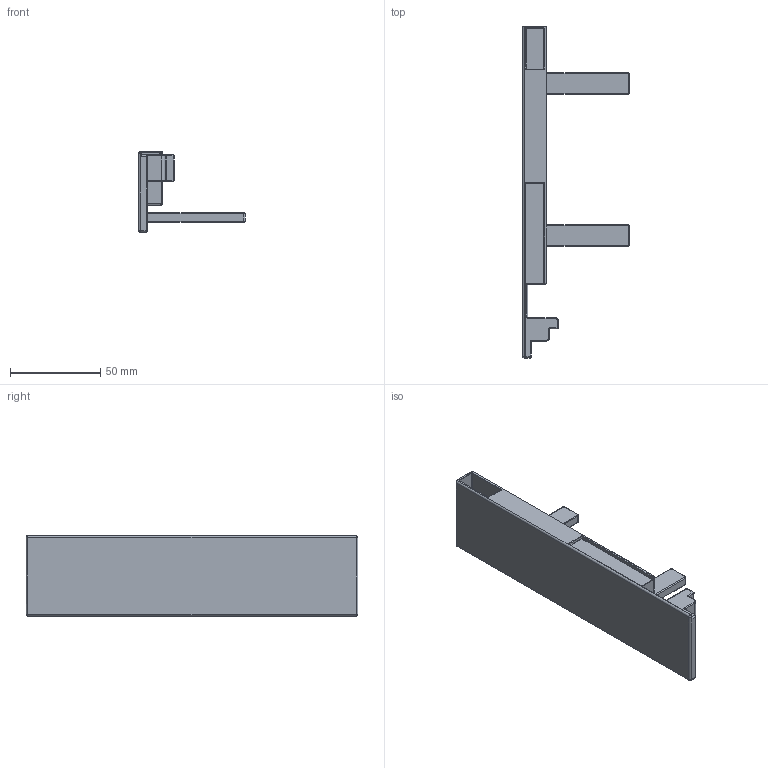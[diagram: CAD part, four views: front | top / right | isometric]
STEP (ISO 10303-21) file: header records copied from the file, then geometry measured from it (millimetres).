
FILE_DESCRIPTION (( 'STEP AP203' ), '1' );
FILE_NAME ('HT13014-L.STEP', '2021-03-30T07:42:47', ( 'Users' ), ( 'Microsoft' ), 'SwSTEP 2.0', 'SolidWorks 2018', '' );
FILE_SCHEMA (( 'CONFIG_CONTROL_DESIGN' ));
Length unit declared in the file: millimetre
Products named in the file (1): HT13014-L
Bounding box: 59.1 x 183.6 x 44.4 mm (x, y, z)
Volume: 72581 mm3; surface area: 26685 mm2
Topology: 1 solids, 1 shells, 184 faces, 443 edges, 252 vertices
Faces by surface type: cylinder 97, plane 38, torus 35, sphere 11, bspline 3
Entity records: 5362 total; most frequent: CARTESIAN_POINT 996, DIRECTION 980, ORIENTED_EDGE 860, EDGE_CURVE 430, AXIS2_PLACEMENT_3D 384, VERTEX_POINT 252, LINE 212, VECTOR 212
